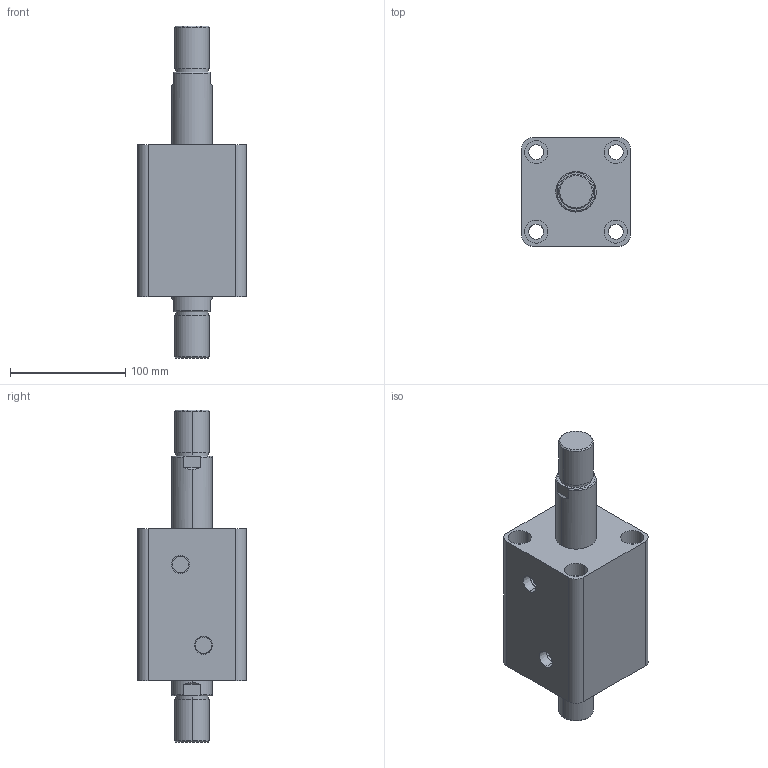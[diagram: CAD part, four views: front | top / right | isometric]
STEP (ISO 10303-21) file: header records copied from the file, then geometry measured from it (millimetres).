
FILE_DESCRIPTION (( 'STEP AP203' ), '1' );
FILE_NAME ('HTB-SW63-50W.STEP', '2019-10-07T10:05:45', ( '微软用户' ), ( '微软中国' ), 'SwSTEP 2.0', 'SolidWorks 2012', '' );
FILE_SCHEMA (( 'CONFIG_CONTROL_DESIGN' ));
Length unit declared in the file: millimetre
Products named in the file (3): HTB-SW63-50W; HTB-SW63-50W活塞杆; HTB-SW63-50掛极
Assembly tree (2 placements, depth 2):
  HTB-SW63-50W
    HTB-SW63-50掛极
    HTB-SW63-50W活塞杆
Bounding box: 94 x 94 x 288 mm (x, y, z)
Volume: 1085121.5 mm3; surface area: 150164 mm2
Topology: 2 solids, 2 shells, 108 faces, 240 edges, 156 vertices
Faces by surface type: cylinder 52, plane 36, torus 12, cone 8
Entity records: 3465 total; most frequent: CARTESIAN_POINT 645, DIRECTION 586, ORIENTED_EDGE 480, AXIS2_PLACEMENT_3D 249, EDGE_CURVE 240, VERTEX_POINT 156, EDGE_LOOP 138, CIRCLE 136
